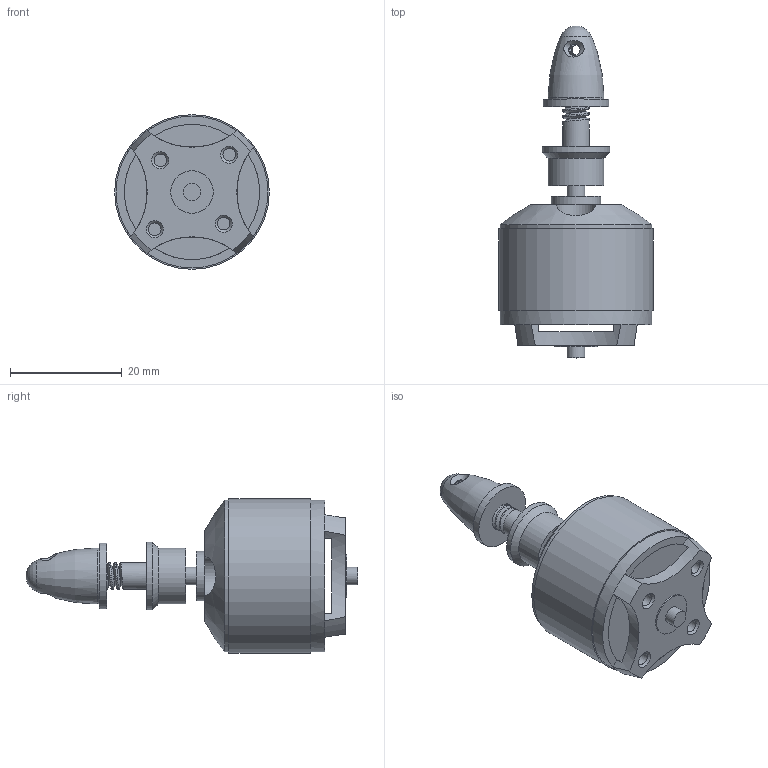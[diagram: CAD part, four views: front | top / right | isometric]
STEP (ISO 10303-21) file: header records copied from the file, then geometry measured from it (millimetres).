
FILE_DESCRIPTION(('Open CASCADE Model'),'2;1');
FILE_NAME('Open CASCADE Shape Model','2026-10-25T20:04:35',('Author'),( 'Open CASCADE'),'Open CASCADE STEP processor 8.0','Open CASCADE 8.0' ,'Unknown');
FILE_SCHEMA(('AUTOMOTIVE_DESIGN { 1 0 10303 214 1 1 1 1 }'));
Length unit declared in the file: millimetre
Products named in the file (5): Open CASCADE STEP translator 8.0 1; Open CASCADE STEP translator 8.0 1.1; Open CASCADE STEP translator 8.0 1.2; Open CASCADE STEP translator 8.0 1.3; Open CASCADE STEP translator 8.0 1.4
Assembly tree (4 placements, depth 2):
  Open CASCADE STEP translator 8.0 1
    Open CASCADE STEP translator 8.0 1.1
    Open CASCADE STEP translator 8.0 1.2
    Open CASCADE STEP translator 8.0 1.3
    Open CASCADE STEP translator 8.0 1.4
Bounding box: 27.69 x 59.44 x 27.69 mm (x, y, z)
Volume: 12616.6 mm3; surface area: 6427.7 mm2
Topology: 4 solids, 4 shells, 130 faces, 347 edges, 224 vertices
Faces by surface type: cylinder 50, plane 48, cone 19, bspline 11, revolution 1, sphere 1
Full cylindrical faces by diameter (mm): 2.032 x1, 2.261 x4, 3.111 x2, 3.302 x1, 4.064 x1, 4.826 x9, 5.791 x1, 6.985 x4, 7.62 x1, 8.89 x1, 10.008 x1, 10.033 x1, 11.836 x1, 12.065 x1, 24.232 x1, 27.178 x2, 27.686 x1
Entity records: 39496 total; most frequent: CARTESIAN_POINT 33164, DIRECTION 978, ORIENTED_EDGE 692, PCURVE 692, DEFINITIONAL_REPRESENTATION 692, B_SPLINE_CURVE_WITH_KNOTS 423, LINE 363, VECTOR 363
